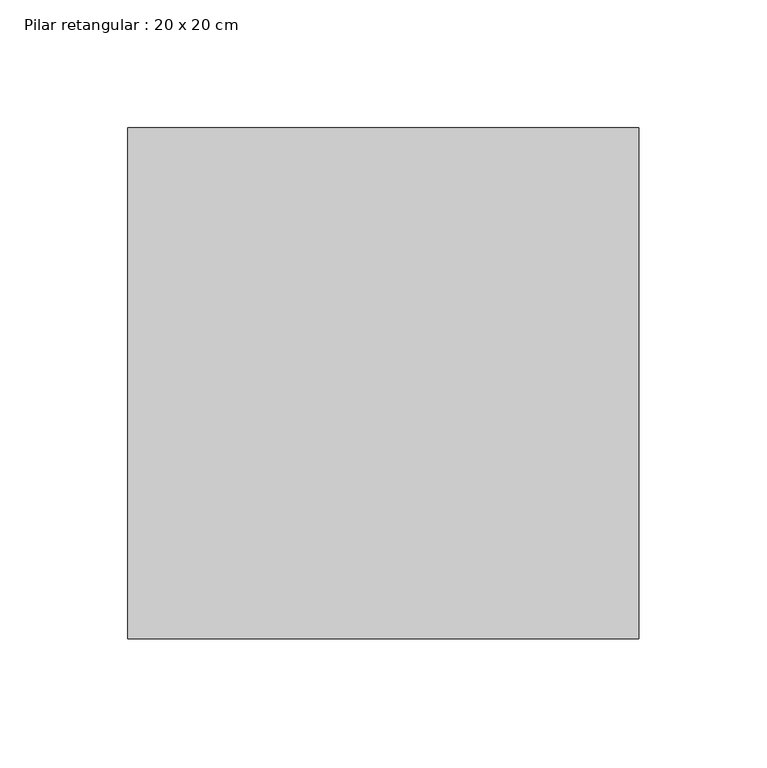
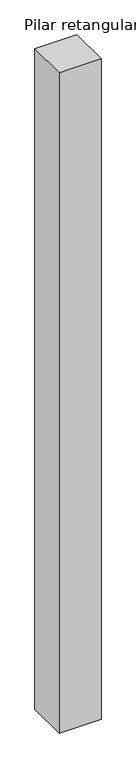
"""IFC4 building model written with IfcOpenShell, lengths in millimetres: column geometry, Pilar retangular : 20 x 20 cm."""

from ifc_helpers import new_model, si_unit, frame, origin, place, context, project, spatial, polyline, outline, extrude, source, transform, mapped, element, save


def pilar_retangular_20_x_20_cm_aca1a7c0(model_context):
    return source(origin(), model_context, "Body", "SweptSolid", [
        extrude(outline(polyline([(100.0, 100.0), (100.0, -100.0), (-100.0, -100.0), (-100.0, 100.0), (100.0, 100.0)])), frame((0.0, 0.0, 300.0), z_axis=(0.0, 0.0, 1.0), x_axis=(1.0, 0.0, 0.0)), (0.0, 0.0, 1.0), 3330.0),
    ])


if __name__ == "__main__":
    model = new_model("IFC4")
    model_context = context("Model", 3, world=origin())
    ifc_project = project(units=[si_unit("LENGTHUNIT", "METRE", prefix="MILLI")], contexts=[model_context])
    site = spatial("IfcSite", under=ifc_project)
    building = spatial("IfcBuilding", under=site)
    placement = place(None, origin())
    pilar_retangular_20_x_20_cm_shape = pilar_retangular_20_x_20_cm_aca1a7c0(model_context)
    element("IfcColumn", 1, ObjectType="Pilar retangular : 20 x 20 cm", at=placement, inside=building, context=model_context, shape_type="MappedRepresentation", body=[
        mapped(pilar_retangular_20_x_20_cm_shape, transform((0.0, 0.0, 0.0), x_axis=(1.0, 0.0, 0.0), y_axis=(0.0, 1.0, 0.0), z_axis=(0.0, 0.0, 1.0))),
    ])
    save(model, "model.ifc")
